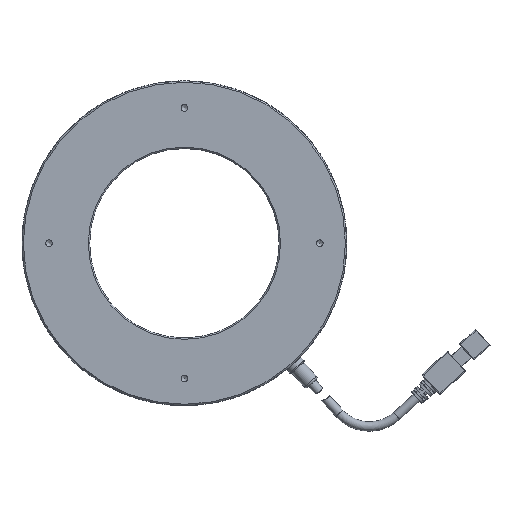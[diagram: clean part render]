
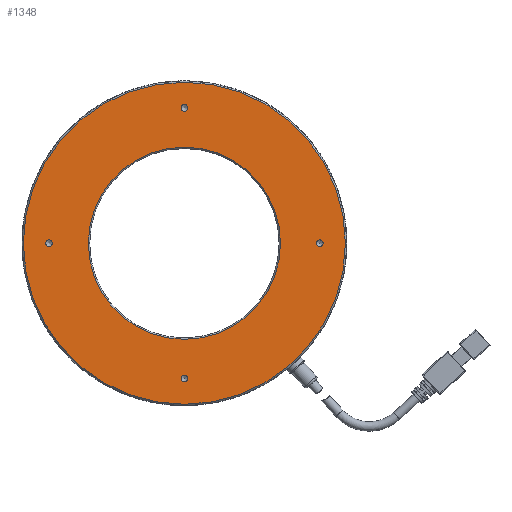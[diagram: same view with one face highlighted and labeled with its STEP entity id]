
A CAD part, front view. The second image highlights one B-rep face of the part: STEP entity #1348.
In plain terms, the highlighted planar face has unit normal (0, -1, 0).
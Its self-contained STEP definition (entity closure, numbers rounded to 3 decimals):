
#492 = DIRECTION ( 'NONE',  ( 0., 1., 0. ) ) ;
#861 = CARTESIAN_POINT ( 'NONE',  ( 0., 0., 35.5 ) ) ;
#1348 = ADVANCED_FACE ( 'NONE', ( #3367, #10408, #25649, #29148, #32253, #8027 ), #14429, .F. ) ;
#1487 = ORIENTED_EDGE ( 'NONE', *, *, #6882, .T. ) ;
#1784 = CARTESIAN_POINT ( 'NONE',  ( 0., 0., -48.75 ) ) ;
#2103 = VERTEX_POINT ( 'NONE', #10863 ) ;
#2439 = EDGE_LOOP ( 'NONE', ( #11353 ) ) ;
#2472 = EDGE_LOOP ( 'NONE', ( #1487 ) ) ;
#2513 = CARTESIAN_POINT ( 'NONE',  ( 0., 0., 0. ) ) ;
#2985 = DIRECTION ( 'NONE',  ( 0., 0., 1. ) ) ;
#3107 = AXIS2_PLACEMENT_3D ( 'NONE', #6605, #29409, #11535 ) ;
#3215 = AXIS2_PLACEMENT_3D ( 'NONE', #11653, #27527, #30509 ) ;
#3367 = FACE_BOUND ( 'NONE', #27161, .T. ) ;
#3937 = EDGE_CURVE ( 'NONE', #8341, #8341, #22667, .T. ) ;
#4466 = CIRCLE ( 'NONE', #13617, 59.5 ) ;
#5380 = CARTESIAN_POINT ( 'NONE',  ( 0., 0., -50. ) ) ;
#5476 = DIRECTION ( 'NONE',  ( 0., 1., 0. ) ) ;
#5810 = DIRECTION ( 'NONE',  ( 0., 1., 0. ) ) ;
#6565 = DIRECTION ( 'NONE',  ( 0., 0., 1. ) ) ;
#6605 = CARTESIAN_POINT ( 'NONE',  ( 35., 0., 0. ) ) ;
#6882 = EDGE_CURVE ( 'NONE', #21593, #21593, #25725, .T. ) ;
#7600 = DIRECTION ( 'NONE',  ( 0., 0., 1. ) ) ;
#8027 = FACE_BOUND ( 'NONE', #2472, .T. ) ;
#8063 = CARTESIAN_POINT ( 'NONE',  ( 50., 0., 0. ) ) ;
#8341 = VERTEX_POINT ( 'NONE', #1784 ) ;
#9420 = ORIENTED_EDGE ( 'NONE', *, *, #19274, .T. ) ;
#10408 = FACE_OUTER_BOUND ( 'NONE', #2439, .T. ) ;
#10582 = AXIS2_PLACEMENT_3D ( 'NONE', #5380, #31015, #6565 ) ;
#10723 = DIRECTION ( 'NONE',  ( 0., 0., 1. ) ) ;
#10863 = CARTESIAN_POINT ( 'NONE',  ( 50., 0., 1.25 ) ) ;
#11353 = ORIENTED_EDGE ( 'NONE', *, *, #22717, .T. ) ;
#11535 = DIRECTION ( 'NONE',  ( 0., 0., 1. ) ) ;
#11653 = CARTESIAN_POINT ( 'NONE',  ( -50., 0., 0. ) ) ;
#11889 = ORIENTED_EDGE ( 'NONE', *, *, #13954, .T. ) ;
#12044 = EDGE_LOOP ( 'NONE', ( #11889 ) ) ;
#13209 = CARTESIAN_POINT ( 'NONE',  ( 0., 0., 50. ) ) ;
#13617 = AXIS2_PLACEMENT_3D ( 'NONE', #2513, #22104, #7600 ) ;
#13954 = EDGE_CURVE ( 'NONE', #28646, #28646, #19577, .T. ) ;
#14429 = PLANE ( 'NONE',  #3107 ) ;
#15717 = VERTEX_POINT ( 'NONE', #861 ) ;
#16048 = CIRCLE ( 'NONE', #23631, 35.5 ) ;
#16179 = EDGE_LOOP ( 'NONE', ( #30281 ) ) ;
#17203 = EDGE_LOOP ( 'NONE', ( #27023 ) ) ;
#17896 = CARTESIAN_POINT ( 'NONE',  ( 0., 0., 0. ) ) ;
#19274 = EDGE_CURVE ( 'NONE', #15717, #15717, #16048, .T. ) ;
#19577 = CIRCLE ( 'NONE', #3215, 1.25 ) ;
#21593 = VERTEX_POINT ( 'NONE', #29351 ) ;
#21771 = AXIS2_PLACEMENT_3D ( 'NONE', #8063, #492, #10723 ) ;
#22104 = DIRECTION ( 'NONE',  ( 0., -1., 0. ) ) ;
#22667 = CIRCLE ( 'NONE', #10582, 1.25 ) ;
#22717 = EDGE_CURVE ( 'NONE', #29045, #29045, #4466, .T. ) ;
#22924 = DIRECTION ( 'NONE',  ( 0., 0., 1. ) ) ;
#23058 = AXIS2_PLACEMENT_3D ( 'NONE', #13209, #5810, #22924 ) ;
#23631 = AXIS2_PLACEMENT_3D ( 'NONE', #17896, #5476, #2985 ) ;
#24445 = CARTESIAN_POINT ( 'NONE',  ( -50., 0., 1.25 ) ) ;
#25649 = FACE_BOUND ( 'NONE', #12044, .T. ) ;
#25725 = CIRCLE ( 'NONE', #23058, 1.25 ) ;
#27023 = ORIENTED_EDGE ( 'NONE', *, *, #32194, .T. ) ;
#27161 = EDGE_LOOP ( 'NONE', ( #9420 ) ) ;
#27527 = DIRECTION ( 'NONE',  ( 0., 1., 0. ) ) ;
#27867 = CARTESIAN_POINT ( 'NONE',  ( 0., 0., 59.5 ) ) ;
#28646 = VERTEX_POINT ( 'NONE', #24445 ) ;
#29045 = VERTEX_POINT ( 'NONE', #27867 ) ;
#29148 = FACE_BOUND ( 'NONE', #16179, .T. ) ;
#29351 = CARTESIAN_POINT ( 'NONE',  ( 0., 0., 51.25 ) ) ;
#29409 = DIRECTION ( 'NONE',  ( 0., 1., 0. ) ) ;
#30281 = ORIENTED_EDGE ( 'NONE', *, *, #3937, .T. ) ;
#30509 = DIRECTION ( 'NONE',  ( 0., 0., 1. ) ) ;
#31015 = DIRECTION ( 'NONE',  ( 0., 1., 0. ) ) ;
#31812 = CIRCLE ( 'NONE', #21771, 1.25 ) ;
#32194 = EDGE_CURVE ( 'NONE', #2103, #2103, #31812, .T. ) ;
#32253 = FACE_BOUND ( 'NONE', #17203, .T. ) ;
